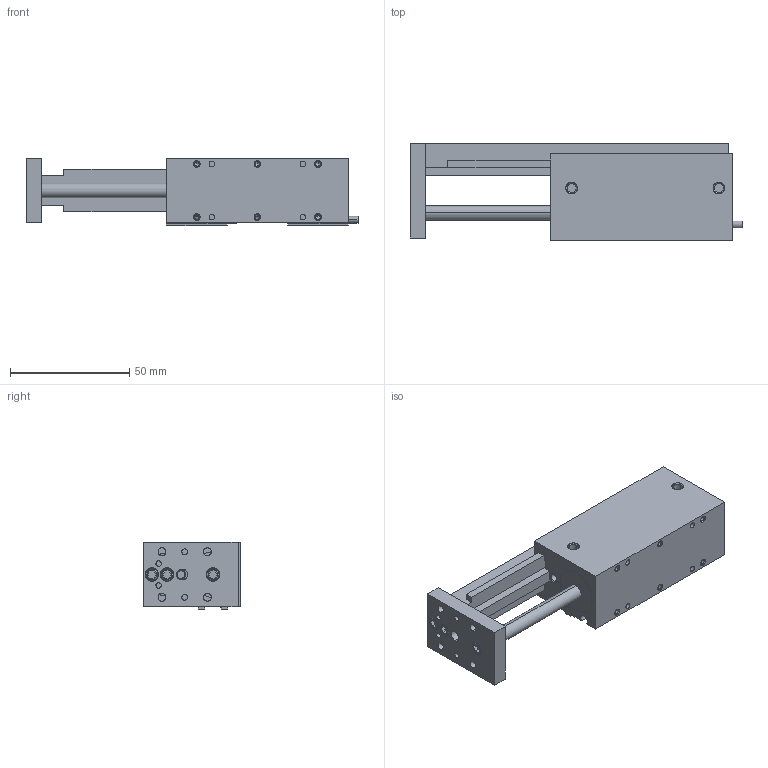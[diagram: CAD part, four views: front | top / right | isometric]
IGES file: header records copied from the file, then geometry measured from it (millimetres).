
Start section: SolidWorks IGES file using analytic representation for surfaces
Global section: file name: C:\Users\jmkuhnes\Pictures\My Transfers\AGMS\AGMS-2-4\AGMS-2-4 EXTENDED in MM.IGS; native system: SolidWorks 2013; preprocessor: SolidWorks 2013; author: jmkuhnes; date: 141106.100921; units: millimetre
Bounding box: 138.95 x 40.84 x 28.2 mm (x, y, z)
Surface area: 32696.2 mm2 (no closed solid volume)
Topology: 0 solids, 0 shells, 339 faces, 5010 edges, 4992 vertices
Faces by surface type: revolution 196, bspline 143
